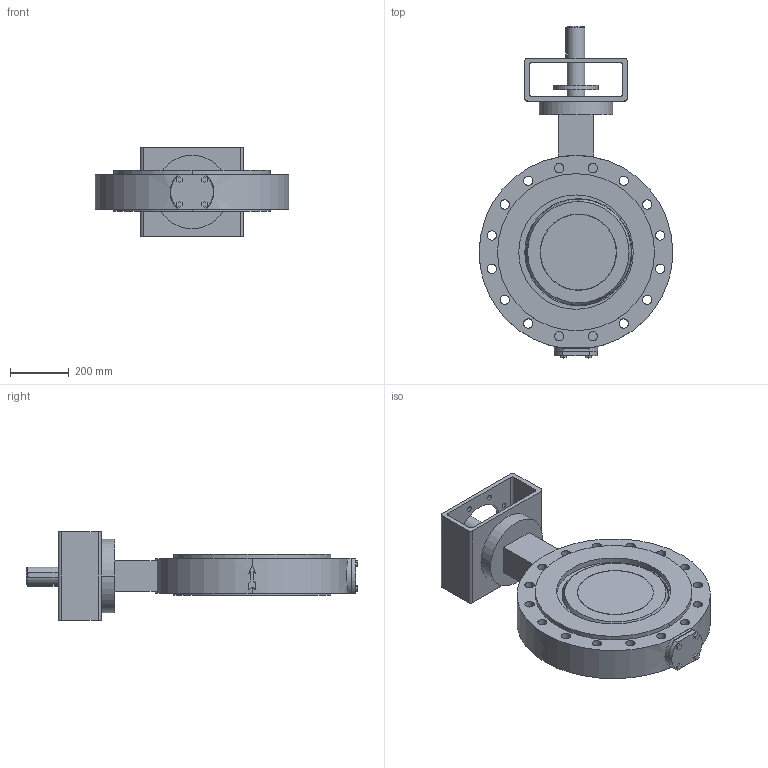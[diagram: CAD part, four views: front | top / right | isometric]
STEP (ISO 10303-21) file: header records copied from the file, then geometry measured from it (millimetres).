
FILE_DESCRIPTION( ( '' ), '1' );
FILE_NAME( 'F:/DE-SHS/TB/OR/04-Sonstiges/daten/files_3d/018_ZETRIX-PN10_freiesWellende/c000006386.stp', '2016-09-01T11:06:05', ( '' ), ( '' ), ' ', ' ', ' ' );
FILE_SCHEMA( ( 'CONFIG_CONTROL_DESIGN' ) );
Length unit declared in the file: millimetre
Products named in the file (1): 1
Bounding box: 660 x 1131.5 x 300 mm (x, y, z)
Volume: 43185043.1 mm3; surface area: 2095718.3 mm2
Topology: 1 solids, 1 shells, 239 faces, 622 edges, 415 vertices
Faces by surface type: cylinder 127, plane 104, cone 4, sphere 4
Entity records: 8399 total; most frequent: CARTESIAN_POINT 2159, DIRECTION 1345, ORIENTED_EDGE 1244, EDGE_CURVE 622, AXIS2_PLACEMENT_3D 517, VERTEX_POINT 415, EDGE_LOOP 319, LINE 311
